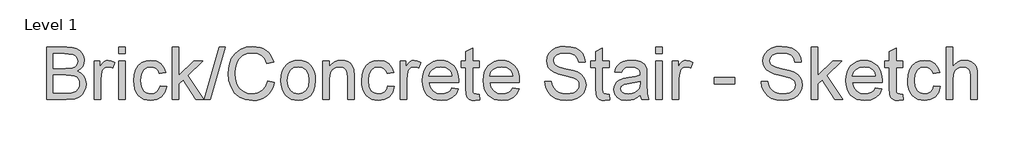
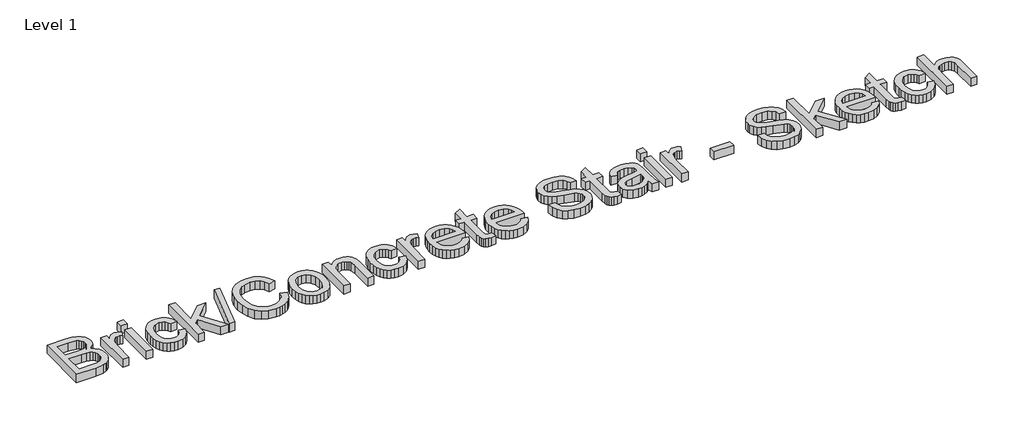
# One storey, part 25 of 26: 1 proxy.
"""IFC4 building model written with IfcOpenShell, lengths in millimetres."""

from ifc_helpers import new_model, si_unit, origin, origin_with_axes, place, context, project, spatial, polyline, outline, extrude, element, save

model = new_model("IFC4")

# Units and contexts
model_context = context("Model", 3, world=origin())
ifc_project = project(units=[si_unit("LENGTHUNIT", "METRE", prefix="MILLI")], contexts=[model_context])

# Site, building, storey
site = spatial("IfcSite", under=ifc_project)
building = spatial("IfcBuilding", under=site)
storey = spatial("IfcBuildingStorey", under=building, Name="Level 1", Elevation=0.0)

# Proxy
placement = place(None, origin())
element("IfcBuildingElementProxy", 1, Name="12\" Arial", ObjectType="12\" Arial", at=placement, inside=storey, context=model_context, shape_type="SweptSolid", body=[
    extrude(outline(polyline([(-4715.4981187, 12524.8767877), (-4715.4981187, 12824.987557), (-4600.978311, 12824.987557), (-4569.4817004, 12822.7803214), (-4544.8907148, 12816.1586146), (-4526.0422052, 12804.957581), (-4511.7730225, 12789.0123646), (-4502.7883831, 12770.2554416), (-4499.7935033, 12750.6192877), (-4502.3121331, 12732.5492637), (-4509.8680225, 12715.5599608), (-4522.5161235, 12700.6954656), (-4540.3113879, 12688.9998646), (-4519.0541523, 12677.8995762), (-4503.347061, 12661.0110185), (-4493.6480466, 12639.4515473), (-4490.4150418, 12614.3385185), (-4492.6222773, 12593.4109945), (-4499.2439841, 12574.003807), (-4509.1261716, 12557.4999127), (-4521.1148494, 12545.2822685), (-4535.7961716, 12536.4350089), (-4553.7562918, 12530.0422685), (-4601.8575418, 12524.8767877), (-4715.4981187, 12524.8767877)]), holes=[polyline([(-4677.9842725, 12703.067557), (-4609.4775418, 12703.067557), (-4569.4725418, 12706.2914031), (-4555.46896, 12711.850706), (-4545.4035994, 12720.1759223), (-4539.3314119, 12731.138831), (-4537.3073494, 12744.6112108), (-4539.1940321, 12757.6897685), (-4544.8540802, 12769.0831339), (-4554.0310514, 12777.9761868), (-4566.4685033, 12783.553807), (-4614.6796571, 12787.4737108), (-4677.9842725, 12787.4737108), (-4677.9842725, 12703.067557)]), polyline([(-4677.9842725, 12562.3906339), (-4601.0515802, 12562.3906339), (-4573.2092725, 12563.8560185), (-4549.6532148, 12572.0255377), (-4534.0468687, 12588.6942877), (-4529.4583831, 12600.4723166), (-4527.9288879, 12613.9721723), (-4529.7239841, 12629.6517877), (-4535.1092725, 12643.1333262), (-4544.51521, 12653.6749368), (-4558.3722533, 12660.5347685), (-4577.9992485, 12664.2989752), (-4604.7150418, 12665.5537108), (-4677.9842725, 12665.5537108), (-4677.9842725, 12562.3906339)])]), origin_with_axes(), (0.0, 0.0, 1.0), 50.8),
    extrude(outline(polyline([(-4443.5227341, 12524.8767877), (-4443.5227341, 12745.2706339), (-4410.6981187, 12745.2706339), (-4410.6981187, 12712.6658262), (-4398.572061, 12731.5692877), (-4387.3985033, 12742.7062108), (-4376.188311, 12748.1464512), (-4363.9523494, 12749.9598646), (-4345.2686956, 12747.06573), (-4326.2919648, 12738.3833262), (-4338.8210033, 12704.7527493), (-4352.0094648, 12710.5227012), (-4365.1979264, 12712.4460185), (-4376.39896, 12710.5959704), (-4386.4093687, 12705.0458262), (-4394.49646, 12696.2168839), (-4399.9275418, 12684.5304416), (-4404.4885514, 12663.5754416), (-4406.0088879, 12640.7154416), (-4406.0088879, 12524.8767877), (-4443.5227341, 12524.8767877)])), origin_with_axes(), (0.0, 0.0, 1.0), 50.8),
    extrude(outline(polyline([(-4302.845811, 12524.8767877), (-4302.845811, 12745.2706339), (-4265.3319648, 12745.2706339), (-4265.3319648, 12524.8767877), (-4302.845811, 12524.8767877)])), origin_with_axes(), (0.0, 0.0, 1.0), 50.8),
    extrude(outline(polyline([(-4302.845811, 12787.4737108), (-4302.845811, 12824.987557), (-4265.3319648, 12824.987557), (-4265.3319648, 12787.4737108), (-4302.845811, 12787.4737108)])), origin_with_axes(), (0.0, 0.0, 1.0), 50.8),
    extrude(outline(polyline([(-4068.3842725, 12604.5937108), (-4030.8704264, 12599.90448), (-4041.3296091, 12566.5395041), (-4060.9840802, 12541.32573), (-4087.9837918, 12525.4721002), (-4120.4786956, 12520.187557), (-4141.5184131, 12522.030736), (-4160.3829504, 12527.5602733), (-4177.0723074, 12536.7761687), (-4191.5864841, 12549.6784223), (-4203.3347473, 12566.0243298), (-4211.7263639, 12585.5711868), (-4216.7613338, 12608.3189933), (-4218.4396571, 12634.2677493), (-4215.5729985, 12667.6510425), (-4206.9730225, 12696.58323), (-4192.5023494, 12719.946956), (-4172.0235994, 12736.6248646), (-4147.5242004, 12746.6261146), (-4120.9915802, 12749.9598646), (-4089.2934793, 12745.3805377), (-4063.9514841, 12731.642557), (-4045.7715562, 12709.4786146), (-4035.5596571, 12679.6214031), (-4073.0735033, 12674.9321723), (-4079.8783831, 12691.2986868), (-4090.4749456, 12703.0309223), (-4104.2770369, 12710.0922445), (-4120.6985033, 12712.4460185), (-4144.94146, 12707.8117396), (-4164.1837918, 12693.9089031), (-4176.7403062, 12669.9864993), (-4180.925811, 12635.2935185), (-4176.8318927, 12600.1334464), (-4164.5501379, 12576.1286146), (-4145.655835, 12562.308206), (-4121.7242725, 12557.7014031), (-4102.2987677, 12560.5772204), (-4086.3718687, 12569.2046723), (-4074.7861716, 12583.8035666), (-4068.3842725, 12604.5937108)])), origin_with_axes(), (0.0, 0.0, 1.0), 50.8),
    extrude(outline(polyline([(-3998.045811, 12524.8767877), (-3998.045811, 12824.987557), (-3960.5319648, 12824.987557), (-3960.5319648, 12663.72198), (-3876.4188879, 12745.2706339), (-3824.5442725, 12745.2706339), (-3909.6831187, 12662.6962108), (-3819.8550418, 12524.8767877), (-3863.6700418, 12524.8767877), (-3936.5729264, 12636.6123646), (-3960.5319648, 12613.3860185), (-3960.5319648, 12524.8767877), (-3998.045811, 12524.8767877)])), origin_with_axes(), (0.0, 0.0, 1.0), 50.8),
    extrude(outline(polyline([(-3815.165811, 12524.8767877), (-3730.7596571, 12824.987557), (-3696.9092725, 12824.987557), (-3781.3154264, 12524.8767877), (-3815.165811, 12524.8767877)])), origin_with_axes(), (0.0, 0.0, 1.0), 50.8),
    extrude(outline(polyline([(-3454.0950418, 12631.5567877), (-3416.5811956, 12621.8852493), (-3424.0042845, 12598.5558683), (-3433.8910514, 12578.1709945), (-3446.2414961, 12560.7306279), (-3461.0556187, 12546.2347685), (-3477.9991283, 12534.8391134), (-3496.7377341, 12526.6993598), (-3517.271436, 12521.8155077), (-3539.6002341, 12520.187557), (-3583.1129985, 12525.1149127), (-3617.6685994, 12539.89698), (-3644.1554264, 12564.0208743), (-3663.4618687, 12596.9737108), (-3675.2490562, 12635.7148166), (-3679.1781187, 12677.2035185), (-3674.7361716, 12720.9635666), (-3661.4103302, 12758.7521723), (-3639.8966523, 12789.3695521), (-3610.8911956, 12811.6159223), (-3576.4912918, 12825.1615714), (-3538.7942725, 12829.6767877), (-3497.6627581, 12823.8335666), (-3479.7690381, 12816.5295401), (-3463.6566764, 12806.3039031), (-3449.5912737, 12793.4268358), (-3437.8384312, 12778.1685185), (-3421.2704264, 12740.5081339), (-3458.7842725, 12731.5692877), (-3471.789561, 12758.9261868), (-3489.5573494, 12777.6922685), (-3512.3074456, 12788.5452733), (-3540.2596571, 12792.1629416), (-3572.4798014, 12788.1514512), (-3598.948311, 12776.11698), (-3619.0332389, 12757.3234223), (-3632.1026379, 12733.0346723), (-3639.2738639, 12705.5770281), (-3641.6642725, 12677.2767877), (-3638.8342485, 12642.6204416), (-3630.3441764, 12612.6533262), (-3615.8735033, 12588.5202733), (-3595.1016764, 12571.3661146), (-3570.1992966, 12561.117581), (-3543.3369648, 12557.7014031), (-3512.0235273, 12562.3539993), (-3485.9305225, 12576.3117877), (-3466.2302581, 12599.42823), (-3454.0950418, 12631.5567877)])), origin_with_axes(), (0.0, 0.0, 1.0), 50.8),
    extrude(outline(polyline([(-3379.0673494, 12635.0737108), (-3377.0387076, 12663.6166555), (-3370.9527821, 12688.2122204), (-3360.809573, 12708.8604055), (-3346.6090802, 12725.5612108), (-3332.3124216, 12736.2356219), (-3316.532061, 12743.8602012), (-3299.2679985, 12748.4349488), (-3280.5202341, 12749.9598646), (-3259.823966, 12748.1029476), (-3241.1105466, 12742.5321964), (-3224.3799756, 12733.247611), (-3209.6322533, 12720.2491916), (-3197.5954925, 12703.9765534), (-3188.9978062, 12684.8693118), (-3183.8391944, 12662.9274668), (-3182.1196571, 12638.1510185), (-3185.1603302, 12600.2525089), (-3194.2823494, 12571.4027493), (-3209.2201139, 12549.7974848), (-3229.7080225, 12533.6324608), (-3254.0425658, 12523.5487829), (-3280.5202341, 12520.187557), (-3301.5187377, 12522.037605), (-3320.4061716, 12527.5877493), (-3337.1825357, 12536.8379896), (-3351.8478302, 12549.7883262), (-3363.7563699, 12566.2189512), (-3372.2624696, 12585.910057), (-3377.3661295, 12608.8616435), (-3379.0673494, 12635.0737108)]), holes=[polyline([(-3341.5535033, 12635.14698), (-3337.2123014, 12601.1958502), (-3324.1886956, 12577.0078454), (-3304.5891764, 12562.5280137), (-3280.5202341, 12557.7014031), (-3256.5611956, 12562.5554896), (-3236.998311, 12577.1177493), (-3223.9747052, 12601.626307), (-3219.6335033, 12636.3192877), (-3224.0021812, 12669.2812829), (-3237.1082148, 12693.1395762), (-3256.6985754, 12707.6194079), (-3280.5202341, 12712.4460185), (-3304.5891764, 12707.6377252), (-3324.1886956, 12693.2128454), (-3337.2123014, 12669.0797925), (-3341.5535033, 12635.14698)])]), origin_with_axes(), (0.0, 0.0, 1.0), 50.8),
    extrude(outline(polyline([(-3139.9165802, 12524.8767877), (-3139.9165802, 12745.2706339), (-3102.4027341, 12745.2706339), (-3102.4027341, 12714.497557), (-3089.3699696, 12730.0123166), (-3073.7178302, 12741.0942877), (-3055.4463158, 12747.7434704), (-3034.5554264, 12749.9598646), (-3016.0641043, 12748.1739271), (-2999.1297533, 12742.8161146), (-2985.0071091, 12734.5550089), (-2974.9509071, 12724.0591916), (-2963.7040802, 12696.4733262), (-2961.725811, 12660.205057), (-2961.725811, 12524.8767877), (-2999.2396571, 12524.8767877), (-2999.2396571, 12655.14948), (-3003.5625418, 12688.3404416), (-3009.5431427, 12698.2226291), (-3018.8391764, 12705.8884223), (-3030.754585, 12710.8066195), (-3044.593311, 12712.4460185), (-3066.5649216, 12708.7642396), (-3085.2943687, 12697.7189031), (-3092.7792785, 12688.7022084), (-3098.1256427, 12676.3792396), (-3102.4027341, 12641.81448), (-3102.4027341, 12524.8767877), (-3139.9165802, 12524.8767877)])), origin_with_axes(), (0.0, 0.0, 1.0), 50.8),
    extrude(outline(polyline([(-2769.4673494, 12604.5937108), (-2731.9535033, 12599.90448), (-2742.412686, 12566.5395041), (-2762.0671571, 12541.32573), (-2789.0668687, 12525.4721002), (-2821.5617725, 12520.187557), (-2842.6014901, 12522.030736), (-2861.4660273, 12527.5602733), (-2878.1553843, 12536.7761687), (-2892.669561, 12549.6784223), (-2904.4178242, 12566.0243298), (-2912.8094408, 12585.5711868), (-2917.8444107, 12608.3189933), (-2919.5227341, 12634.2677493), (-2916.6560754, 12667.6510425), (-2908.0560994, 12696.58323), (-2893.5854264, 12719.946956), (-2873.1066764, 12736.6248646), (-2848.6072773, 12746.6261146), (-2822.0746571, 12749.9598646), (-2790.3765562, 12745.3805377), (-2765.034561, 12731.642557), (-2746.8546331, 12709.4786146), (-2736.6427341, 12679.6214031), (-2774.1565802, 12674.9321723), (-2780.96146, 12691.2986868), (-2791.5580225, 12703.0309223), (-2805.3601139, 12710.0922445), (-2821.7815802, 12712.4460185), (-2846.0245369, 12707.8117396), (-2865.2668687, 12693.9089031), (-2877.8233831, 12669.9864993), (-2882.0088879, 12635.2935185), (-2877.9149696, 12600.1334464), (-2865.6332148, 12576.1286146), (-2846.7389119, 12562.308206), (-2822.8073494, 12557.7014031), (-2803.3818446, 12560.5772204), (-2787.4549456, 12569.2046723), (-2775.8692485, 12583.8035666), (-2769.4673494, 12604.5937108)])), origin_with_axes(), (0.0, 0.0, 1.0), 50.8),
    extrude(outline(polyline([(-2699.1288879, 12524.8767877), (-2699.1288879, 12745.2706339), (-2666.3042725, 12745.2706339), (-2666.3042725, 12712.6658262), (-2654.1782148, 12731.5692877), (-2643.0046571, 12742.7062108), (-2631.7944648, 12748.1464512), (-2619.5585033, 12749.9598646), (-2600.8748494, 12747.06573), (-2581.8981187, 12738.3833262), (-2594.4271571, 12704.7527493), (-2607.6156187, 12710.5227012), (-2620.8040802, 12712.4460185), (-2632.0051139, 12710.5959704), (-2642.0155225, 12705.0458262), (-2650.1026139, 12696.2168839), (-2655.5336956, 12684.5304416), (-2660.0947052, 12663.5754416), (-2661.6150418, 12640.7154416), (-2661.6150418, 12524.8767877), (-2699.1288879, 12524.8767877)])), origin_with_axes(), (0.0, 0.0, 1.0), 50.8),
    extrude(outline(polyline([(-2404.1469648, 12590.5260185), (-2367.365811, 12585.8367877), (-2380.6183831, 12558.1227012), (-2401.7657148, 12537.4058262), (-2430.3315562, 12524.4921243), (-2465.8396571, 12520.187557), (-2489.1163759, 12522.044474), (-2509.8561475, 12527.6152252), (-2528.058972, 12536.8998106), (-2543.7248494, 12549.89823), (-2556.3225778, 12566.2487168), (-2565.3209552, 12585.5895041), (-2570.7199817, 12607.9205918), (-2572.5196571, 12633.24198), (-2570.7016643, 12659.4219921), (-2565.247686, 12682.4972204), (-2556.157722, 12702.4676651), (-2543.4317725, 12719.3333262), (-2527.8071091, 12732.7324368), (-2510.0210033, 12742.30323), (-2490.0734552, 12748.045706), (-2467.9644648, 12749.9598646), (-2446.5675598, 12748.0502853), (-2427.2176139, 12742.3215473), (-2409.9146271, 12732.7736507), (-2394.6585994, 12719.4065954), (-2382.2051199, 12702.577569), (-2373.3097773, 12682.6437589), (-2367.9725718, 12659.6051651), (-2366.1935033, 12633.4617877), (-2366.413311, 12623.3506339), (-2535.005811, 12623.3506339), (-2528.5123254, 12595.2702012), (-2513.4280225, 12574.6265954), (-2491.6579023, 12561.9327012), (-2465.1069648, 12557.7014031), (-2445.1410994, 12559.661355), (-2428.325811, 12565.5412108), (-2414.6610994, 12575.7073166), (-2404.1469648, 12590.5260185)]), holes=[polyline([(-2535.005811, 12660.86448), (-2403.7073494, 12660.86448), (-2408.7812437, 12680.683807), (-2418.7275418, 12694.8614031), (-2440.5984071, 12708.0498646), (-2468.1110033, 12712.4460185), (-2493.3980466, 12708.9382541), (-2514.3072533, 12698.4149608), (-2528.8420369, 12682.0118118), (-2535.005811, 12660.86448)])]), origin_with_axes(), (0.0, 0.0, 1.0), 50.8),
    extrude(outline(polyline([(-2248.9627341, 12556.1627493), (-2244.2735033, 12523.7777493), (-2272.3356187, 12520.187557), (-2290.3415321, 12521.7445281), (-2303.7681187, 12526.4154416), (-2313.2564841, 12533.6141435), (-2319.4477341, 12542.75448), (-2322.8547533, 12558.4524127), (-2323.9904264, 12585.3239031), (-2323.9904264, 12707.7567877), (-2352.125811, 12707.7567877), (-2352.125811, 12745.2706339), (-2323.9904264, 12745.2706339), (-2323.9904264, 12798.8304416), (-2286.4765802, 12820.88448), (-2286.4765802, 12745.2706339), (-2248.9627341, 12745.2706339), (-2248.9627341, 12707.7567877), (-2286.4765802, 12707.7567877), (-2286.4765802, 12586.4229416), (-2284.498311, 12567.0798646), (-2278.0872533, 12560.2291916), (-2265.3017725, 12557.7014031), (-2248.9627341, 12556.1627493)])), origin_with_axes(), (0.0, 0.0, 1.0), 50.8),
    extrude(outline(polyline([(-2057.1438879, 12590.5260185), (-2020.3627341, 12585.8367877), (-2033.6153062, 12558.1227012), (-2054.7626379, 12537.4058262), (-2083.3284793, 12524.4921243), (-2118.8365802, 12520.187557), (-2142.113299, 12522.044474), (-2162.8530706, 12527.6152252), (-2181.0558951, 12536.8998106), (-2196.7217725, 12549.89823), (-2209.3195009, 12566.2487168), (-2218.3178783, 12585.5895041), (-2223.7169047, 12607.9205918), (-2225.5165802, 12633.24198), (-2223.6985874, 12659.4219921), (-2218.2446091, 12682.4972204), (-2209.1546451, 12702.4676651), (-2196.4286956, 12719.3333262), (-2180.8040321, 12732.7324368), (-2163.0179264, 12742.30323), (-2143.0703783, 12748.045706), (-2120.9613879, 12749.9598646), (-2099.5644829, 12748.0502853), (-2080.2145369, 12742.3215473), (-2062.9115502, 12732.7736507), (-2047.6555225, 12719.4065954), (-2035.202043, 12702.577569), (-2026.3067004, 12682.6437589), (-2020.9694949, 12659.6051651), (-2019.1904264, 12633.4617877), (-2019.4102341, 12623.3506339), (-2188.0027341, 12623.3506339), (-2181.5092485, 12595.2702012), (-2166.4249456, 12574.6265954), (-2144.6548254, 12561.9327012), (-2118.1038879, 12557.7014031), (-2098.1380225, 12559.661355), (-2081.3227341, 12565.5412108), (-2067.6580225, 12575.7073166), (-2057.1438879, 12590.5260185)]), holes=[polyline([(-2188.0027341, 12660.86448), (-2056.7042725, 12660.86448), (-2061.7781668, 12680.683807), (-2071.7244648, 12694.8614031), (-2093.5953302, 12708.0498646), (-2121.1079264, 12712.4460185), (-2146.3949696, 12708.9382541), (-2167.3041764, 12698.4149608), (-2181.83896, 12682.0118118), (-2188.0027341, 12660.86448)])]), origin_with_axes(), (0.0, 0.0, 1.0), 50.8),
    extrude(outline(polyline([(-1873.8242725, 12628.0398646), (-1836.3104264, 12628.0398646), (-1832.0058591, 12607.2222445), (-1824.2210033, 12590.4893839), (-1812.0766283, 12577.2093358), (-1794.6935033, 12566.7501531), (-1773.4454264, 12559.9635906), (-1749.7061956, 12557.7014031), (-1728.8061475, 12559.4140714), (-1710.5071571, 12564.5520762), (-1695.6792966, 12572.6849608), (-1685.1926379, 12583.3822685), (-1678.9555946, 12595.6640233), (-1676.8765802, 12608.5502493), (-1678.4335514, 12621.1067637), (-1683.1044648, 12631.9597685), (-1692.5928302, 12641.2191675), (-1708.6021571, 12648.9948646), (-1763.2243687, 12663.3189993), (-1799.0804985, 12672.798206), (-1822.0229264, 12681.81948), (-1840.6974216, 12694.440105), (-1853.9316764, 12709.735057), (-1861.8172773, 12727.3746243), (-1864.445811, 12747.0290954), (-1861.1944889, 12769.000706), (-1851.4405225, 12789.4886146), (-1835.4403543, 12806.8534223), (-1813.4504264, 12819.45573), (-1787.055186, 12827.1215233), (-1757.8390802, 12829.6767877), (-1726.1867725, 12827.0024608), (-1698.4910033, 12818.97948), (-1675.7409071, 12805.7727012), (-1658.9256187, 12787.54698), (-1648.2832629, 12765.4379896), (-1644.0519648, 12740.5814031), (-1681.565811, 12740.5814031), (-1688.4531187, 12762.9651531), (-1702.8138879, 12779.1210185), (-1725.2525898, 12788.9024608), (-1756.3736956, 12792.1629416), (-1788.2274937, 12788.9390954), (-1810.0800418, 12779.267557), (-1822.7189841, 12765.0350089), (-1826.9319648, 12748.1281339), (-1823.9462437, 12733.7124127), (-1814.9890802, 12722.117557), (-1793.8142725, 12711.7499608), (-1753.7360033, 12701.162557), (-1712.3755225, 12691.106355), (-1687.3540802, 12682.3323646), (-1665.9686235, 12668.722605), (-1651.0491764, 12651.9256339), (-1642.2843446, 12632.1246243), (-1639.3627341, 12609.5027493), (-1642.72396, 12586.3771483), (-1652.8076379, 12564.6253454), (-1669.2016283, 12545.905057), (-1691.4937918, 12531.8739993), (-1718.3011716, 12523.1091675), (-1748.240811, 12520.187557), (-1784.9944889, 12523.3381339), (-1815.2455225, 12532.7898646), (-1839.3419408, 12548.5793839), (-1857.6317725, 12570.7433262), (-1869.3731668, 12597.7430377), (-1873.8242725, 12628.0398646)])), origin_with_axes(), (0.0, 0.0, 1.0), 50.8),
    extrude(outline(polyline([(-1508.0642725, 12556.1627493), (-1503.3750418, 12523.7777493), (-1531.4371571, 12520.187557), (-1549.4430706, 12521.7445281), (-1562.8696571, 12526.4154416), (-1572.3580225, 12533.6141435), (-1578.5492725, 12542.75448), (-1581.9562918, 12558.4524127), (-1583.0919648, 12585.3239031), (-1583.0919648, 12707.7567877), (-1611.2273494, 12707.7567877), (-1611.2273494, 12745.2706339), (-1583.0919648, 12745.2706339), (-1583.0919648, 12798.8304416), (-1545.5781187, 12820.88448), (-1545.5781187, 12745.2706339), (-1508.0642725, 12745.2706339), (-1508.0642725, 12707.7567877), (-1545.5781187, 12707.7567877), (-1545.5781187, 12586.4229416), (-1543.5998494, 12567.0798646), (-1537.1887918, 12560.2291916), (-1524.403311, 12557.7014031), (-1508.0642725, 12556.1627493)])), origin_with_axes(), (0.0, 0.0, 1.0), 50.8),
    extrude(outline(polyline([(-1329.8735033, 12553.0121723), (-1347.7969889, 12537.6439512), (-1366.2516764, 12527.5877493), (-1385.6588639, 12522.037605), (-1406.4398494, 12520.187557), (-1437.7899216, 12524.6386627), (-1460.9155225, 12537.99198), (-1475.1755466, 12558.2692396), (-1479.9288879, 12583.4921723), (-1478.1337918, 12599.0435666), (-1472.7485033, 12613.1662108), (-1464.4416043, 12625.2556339), (-1453.8816764, 12634.7073646), (-1427.6146571, 12647.0165954), (-1395.1563879, 12652.6583262), (-1356.7999456, 12658.5931339), (-1330.093311, 12665.5537108), (-1329.8735033, 12673.9064031), (-1332.4562437, 12690.6484223), (-1340.2044648, 12701.6021723), (-1357.5326379, 12709.735057), (-1381.6748494, 12712.4460185), (-1404.0219648, 12710.6417637), (-1419.628311, 12705.2289993), (-1430.2706668, 12695.2185906), (-1437.725811, 12679.6214031), (-1475.2396571, 12684.3106339), (-1468.7278543, 12704.8260185), (-1459.0105225, 12720.9452493), (-1445.1809552, 12733.2727973), (-1426.3324456, 12742.4131339), (-1403.2801139, 12748.073182), (-1376.8390802, 12749.9598646), (-1351.4787677, 12748.2929896), (-1331.3755225, 12743.2923646), (-1316.2179504, 12735.7731098), (-1305.6946571, 12726.5503454), (-1298.7157629, 12715.1478214), (-1294.1913879, 12701.0892877), (-1292.3596571, 12668.2646723), (-1292.3596571, 12621.5921723), (-1290.4546571, 12556.4191916), (-1282.9811956, 12524.8767877), (-1320.4950418, 12524.8767877), (-1329.8735033, 12553.0121723)]), holes=[polyline([(-1329.8735033, 12628.0398646), (-1390.3938879, 12616.5365954), (-1422.6689841, 12610.4552493), (-1437.2861956, 12600.5639031), (-1442.4150418, 12586.1298646), (-1439.6216523, 12574.9746243), (-1431.2414841, 12565.8342877), (-1417.45771, 12559.7346243), (-1398.4535033, 12557.7014031), (-1378.3044648, 12559.9452733), (-1360.5000418, 12566.6768839), (-1346.0660033, 12576.595706), (-1336.0281187, 12588.4012108), (-1331.5770129, 12600.5639031), (-1330.093311, 12617.4158262), (-1329.8735033, 12628.0398646)])]), origin_with_axes(), (0.0, 0.0, 1.0), 50.8),
    extrude(outline(polyline([(-1240.7781187, 12524.8767877), (-1240.7781187, 12745.2706339), (-1203.2642725, 12745.2706339), (-1203.2642725, 12524.8767877), (-1240.7781187, 12524.8767877)])), origin_with_axes(), (0.0, 0.0, 1.0), 50.8),
    extrude(outline(polyline([(-1240.7781187, 12787.4737108), (-1240.7781187, 12824.987557), (-1203.2642725, 12824.987557), (-1203.2642725, 12787.4737108), (-1240.7781187, 12787.4737108)])), origin_with_axes(), (0.0, 0.0, 1.0), 50.8),
    extrude(outline(polyline([(-1146.9935033, 12524.8767877), (-1146.9935033, 12745.2706339), (-1114.1688879, 12745.2706339), (-1114.1688879, 12712.6658262), (-1102.0428302, 12731.5692877), (-1090.8692725, 12742.7062108), (-1079.6590802, 12748.1464512), (-1067.4231187, 12749.9598646), (-1048.7394648, 12747.06573), (-1029.7627341, 12738.3833262), (-1042.2917725, 12704.7527493), (-1055.4802341, 12710.5227012), (-1068.6686956, 12712.4460185), (-1079.8697293, 12710.5959704), (-1089.8801379, 12705.0458262), (-1097.9672293, 12696.2168839), (-1103.398311, 12684.5304416), (-1107.9593206, 12663.5754416), (-1109.4796571, 12640.7154416), (-1109.4796571, 12524.8767877), (-1146.9935033, 12524.8767877)])), origin_with_axes(), (0.0, 0.0, 1.0), 50.8),
    extrude(outline(polyline([(-907.8427341, 12613.9721723), (-907.8427341, 12651.4860185), (-790.6119648, 12651.4860185), (-790.6119648, 12613.9721723), (-907.8427341, 12613.9721723)])), origin_with_axes(), (0.0, 0.0, 1.0), 50.8),
    extrude(outline(polyline([(-640.5565802, 12628.0398646), (-603.0427341, 12628.0398646), (-598.7381668, 12607.2222445), (-590.953311, 12590.4893839), (-578.808936, 12577.2093358), (-561.425811, 12566.7501531), (-540.1777341, 12559.9635906), (-516.4385033, 12557.7014031), (-495.5384552, 12559.4140714), (-477.2394648, 12564.5520762), (-462.4116043, 12572.6849608), (-451.9249456, 12583.3822685), (-445.6879023, 12595.6640233), (-443.6088879, 12608.5502493), (-445.1658591, 12621.1067637), (-449.8367725, 12631.9597685), (-459.3251379, 12641.2191675), (-475.3344648, 12648.9948646), (-529.9566764, 12663.3189993), (-565.8128062, 12672.798206), (-588.7552341, 12681.81948), (-607.4297293, 12694.440105), (-620.6639841, 12709.735057), (-628.549585, 12727.3746243), (-631.1781187, 12747.0290954), (-627.9267966, 12769.000706), (-618.1728302, 12789.4886146), (-602.1726619, 12806.8534223), (-580.1827341, 12819.45573), (-553.7874937, 12827.1215233), (-524.5713879, 12829.6767877), (-492.9190802, 12827.0024608), (-465.223311, 12818.97948), (-442.4732148, 12805.7727012), (-425.6579264, 12787.54698), (-415.0155706, 12765.4379896), (-410.7842725, 12740.5814031), (-448.2981187, 12740.5814031), (-455.1854264, 12762.9651531), (-469.5461956, 12779.1210185), (-491.9848975, 12788.9024608), (-523.1060033, 12792.1629416), (-554.9598014, 12788.9390954), (-576.8123494, 12779.267557), (-589.4512918, 12765.0350089), (-593.6642725, 12748.1281339), (-590.6785514, 12733.7124127), (-581.7213879, 12722.117557), (-560.5465802, 12711.7499608), (-520.468311, 12701.162557), (-479.1078302, 12691.106355), (-454.0863879, 12682.3323646), (-432.7009312, 12668.722605), (-417.7814841, 12651.9256339), (-409.0166523, 12632.1246243), (-406.0950418, 12609.5027493), (-409.4562677, 12586.3771483), (-419.5399456, 12564.6253454), (-435.933936, 12545.905057), (-458.2260994, 12531.8739993), (-485.0334793, 12523.1091675), (-514.9731187, 12520.187557), (-551.7267966, 12523.3381339), (-581.9778302, 12532.7898646), (-606.0742485, 12548.5793839), (-624.3640802, 12570.7433262), (-636.1054744, 12597.7430377), (-640.5565802, 12628.0398646)])), origin_with_axes(), (0.0, 0.0, 1.0), 50.8),
    extrude(outline(polyline([(-354.5135033, 12524.8767877), (-354.5135033, 12824.987557), (-316.9996571, 12824.987557), (-316.9996571, 12663.72198), (-232.8865802, 12745.2706339), (-181.0119648, 12745.2706339), (-266.150811, 12662.6962108), (-176.3227341, 12524.8767877), (-220.1377341, 12524.8767877), (-293.0406187, 12636.6123646), (-316.9996571, 12613.3860185), (-316.9996571, 12524.8767877), (-354.5135033, 12524.8767877)])), origin_with_axes(), (0.0, 0.0, 1.0), 50.8),
    extrude(outline(polyline([(10.8068813, 12590.5260185), (47.5880352, 12585.8367877), (34.3354631, 12558.1227012), (13.1881313, 12537.4058262), (-15.37771, 12524.4921243), (-50.885811, 12520.187557), (-74.1625297, 12522.044474), (-94.9023014, 12527.6152252), (-113.1051259, 12536.8998106), (-128.7710033, 12549.89823), (-141.3687317, 12566.2487168), (-150.3671091, 12585.5895041), (-155.7661355, 12607.9205918), (-157.565811, 12633.24198), (-155.7478182, 12659.4219921), (-150.2938398, 12682.4972204), (-141.2038759, 12702.4676651), (-128.4779264, 12719.3333262), (-112.8532629, 12732.7324368), (-95.0671571, 12742.30323), (-75.1196091, 12748.045706), (-53.0106187, 12749.9598646), (-31.6137136, 12748.0502853), (-12.2637677, 12742.3215473), (5.0392191, 12732.7736507), (20.2952467, 12719.4065954), (32.7487263, 12702.577569), (41.6440688, 12682.6437589), (46.9812744, 12659.6051651), (48.7603429, 12633.4617877), (48.5405352, 12623.3506339), (-120.0519648, 12623.3506339), (-113.5584793, 12595.2702012), (-98.4741764, 12574.6265954), (-76.7040562, 12561.9327012), (-50.1531187, 12557.7014031), (-30.1872533, 12559.661355), (-13.3719648, 12565.5412108), (0.2927467, 12575.7073166), (10.8068813, 12590.5260185)]), holes=[polyline([(-120.0519648, 12660.86448), (11.2464967, 12660.86448), (6.1726025, 12680.683807), (-3.7736956, 12694.8614031), (-25.644561, 12708.0498646), (-53.1571571, 12712.4460185), (-78.4442004, 12708.9382541), (-99.3534071, 12698.4149608), (-113.8881908, 12682.0118118), (-120.0519648, 12660.86448)])]), origin_with_axes(), (0.0, 0.0, 1.0), 50.8),
    extrude(outline(polyline([(165.9911121, 12556.1627493), (170.6803429, 12523.7777493), (142.6182275, 12520.187557), (124.612314, 12521.7445281), (111.1857275, 12526.4154416), (101.6973621, 12533.6141435), (95.5061121, 12542.75448), (92.0990929, 12558.4524127), (90.9634198, 12585.3239031), (90.9634198, 12707.7567877), (62.8280352, 12707.7567877), (62.8280352, 12745.2706339), (90.9634198, 12745.2706339), (90.9634198, 12798.8304416), (128.4772659, 12820.88448), (128.4772659, 12745.2706339), (165.9911121, 12745.2706339), (165.9911121, 12707.7567877), (128.4772659, 12707.7567877), (128.4772659, 12586.4229416), (130.4555352, 12567.0798646), (136.8665929, 12560.2291916), (149.6520736, 12557.7014031), (165.9911121, 12556.1627493)])), origin_with_axes(), (0.0, 0.0, 1.0), 50.8),
    extrude(outline(polyline([(344.1818813, 12604.5937108), (381.6957275, 12599.90448), (371.2365448, 12566.5395041), (351.5820736, 12541.32573), (324.5823621, 12525.4721002), (292.0874582, 12520.187557), (271.0477407, 12522.030736), (252.1832034, 12527.5602733), (235.4938465, 12536.7761687), (220.9796698, 12549.6784223), (209.2314066, 12566.0243298), (200.83979, 12585.5711868), (195.80482, 12608.3189933), (194.1264967, 12634.2677493), (196.9931554, 12667.6510425), (205.5931313, 12696.58323), (220.0638044, 12719.946956), (240.5425544, 12736.6248646), (265.0419534, 12746.6261146), (291.5745736, 12749.9598646), (323.2726746, 12745.3805377), (348.6146698, 12731.642557), (366.7945977, 12709.4786146), (377.0064967, 12679.6214031), (339.4926506, 12674.9321723), (332.6877707, 12691.2986868), (322.0912082, 12703.0309223), (308.2891169, 12710.0922445), (291.8676506, 12712.4460185), (267.6246938, 12707.8117396), (248.3823621, 12693.9089031), (235.8258477, 12669.9864993), (231.6403429, 12635.2935185), (235.7342611, 12600.1334464), (248.0160159, 12576.1286146), (266.9103188, 12562.308206), (290.8418813, 12557.7014031), (310.2673861, 12560.5772204), (326.1942852, 12569.2046723), (337.7799823, 12583.8035666), (344.1818813, 12604.5937108)])), origin_with_axes(), (0.0, 0.0, 1.0), 50.8),
    extrude(outline(polyline([(414.5203429, 12524.8767877), (414.5203429, 12824.987557), (452.034189, 12824.987557), (452.034189, 12714.6440954), (465.8133837, 12730.0947445), (481.2869294, 12741.1309223), (498.454826, 12747.7526291), (517.3170736, 12749.9598646), (539.9755832, 12747.5511387), (559.4468813, 12740.3249608), (574.7784679, 12728.8491675), (585.0178429, 12713.6915954), (590.7877948, 12692.8648166), (592.7111121, 12664.3814031), (592.7111121, 12524.8767877), (555.1972659, 12524.8767877), (555.1972659, 12660.4981339), (552.2115448, 12683.9809223), (543.2543813, 12700.0635185), (528.8203429, 12709.3503935), (509.4039967, 12712.4460185), (493.5503669, 12710.3578454), (478.6675544, 12704.0933262), (466.3400063, 12694.256932), (458.1521698, 12681.4531339), (453.5636842, 12664.436355), (452.034189, 12641.9610185), (452.034189, 12524.8767877), (414.5203429, 12524.8767877)])), origin_with_axes(), (0.0, 0.0, 1.0), 50.8),
])

save(model, "model.ifc")
